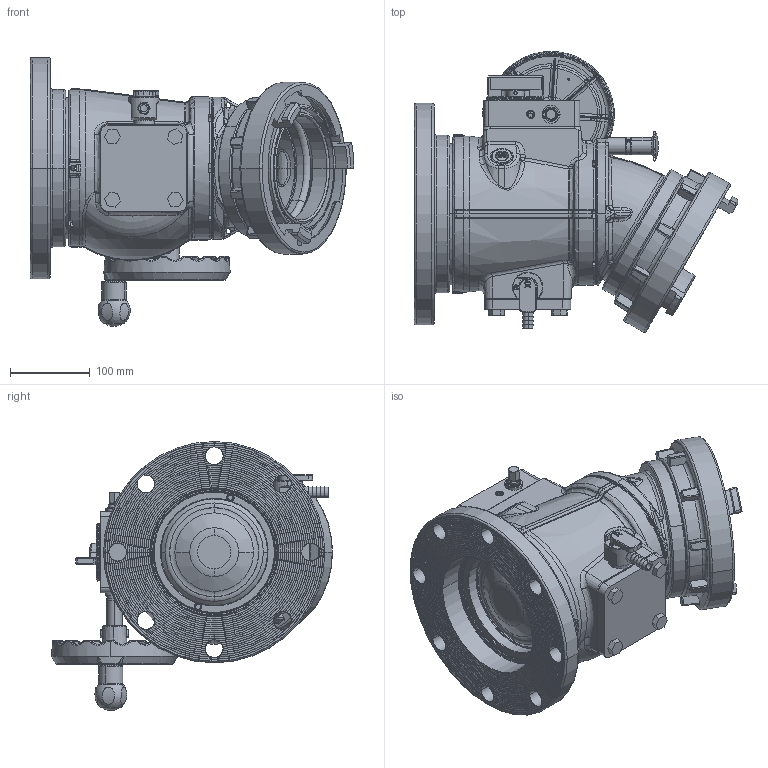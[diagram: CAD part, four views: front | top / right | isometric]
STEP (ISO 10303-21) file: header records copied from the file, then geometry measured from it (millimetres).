
FILE_DESCRIPTION (( 'STEP AP203' ), '1' );
FILE_NAME ('AZ1SX-FX.step', '2014-05-13T19:29:09', ( 'user' ), ( '' ), 'SwSTEP 2.0', 'SolidWorks 2012', '' );
FILE_SCHEMA (( 'CONFIG_CONTROL_DESIGN' ));
Length unit declared in the file: inch
Products named in the file (1): AZ1SX-FX
Bounding box: 405.03 x 351.59 x 336.49 mm (x, y, z)
Surface area: 728380.4 mm2 (no closed solid volume)
Topology: 0 solids, 136 shells, 2052 faces, 8909 edges, 6840 vertices
Faces by surface type: plane 662, cylinder 424, bspline 403, torus 316, cone 206, sphere 41
Entity records: 125936 total; most frequent: CARTESIAN_POINT 58757, ORIENTED_EDGE 13117, DIRECTION 12591, EDGE_CURVE 8878, VERTEX_POINT 6838, AXIS2_PLACEMENT_3D 4253, VECTOR 4085, LINE 4085
